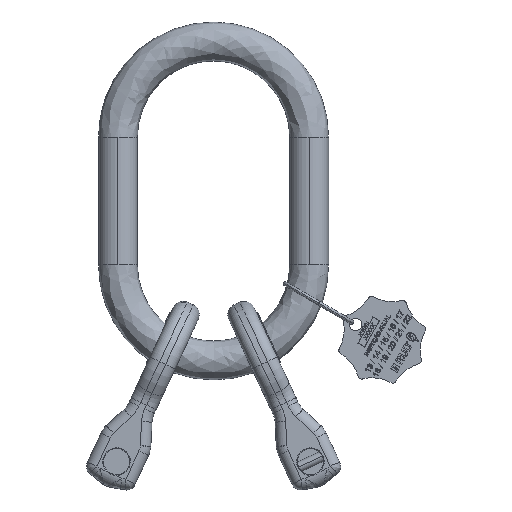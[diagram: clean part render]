
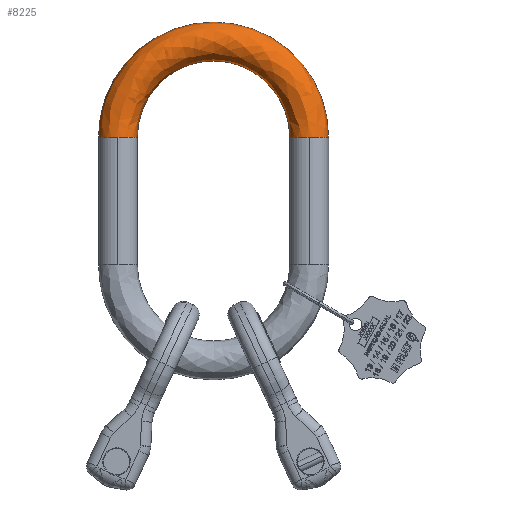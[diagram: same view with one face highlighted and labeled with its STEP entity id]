
A CAD part, top view. The second image highlights one B-rep face of the part: STEP entity #8225.
In plain terms, the highlighted free-form (B-spline) face has degree [3, 3] with [4, 4] control points.
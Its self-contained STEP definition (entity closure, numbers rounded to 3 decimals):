
#8225 = ADVANCED_FACE ( 'NONE', ( #28267 ), #12622, .T. ) ;
#8747 = EDGE_CURVE ( 'NONE', #49415, #49153, #15581, .T. ) ;
#8748 = EDGE_CURVE ( 'NONE', #49151, #49415, #15579, .T. ) ;
#8749 = EDGE_CURVE ( 'NONE', #49153, #49169, #15583, .T. ) ;
#8750 = EDGE_CURVE ( 'NONE', #49169, #49170, #15584, .T. ) ;
#8751 = EDGE_CURVE ( 'NONE', #49419, #49170, #15585, .T. ) ;
#8752 = EDGE_CURVE ( 'NONE', #49419, #49151, #15582, .T. ) ;
#12622 =( BOUNDED_SURFACE ( )  B_SPLINE_SURFACE ( 3, 3, ( 
 ( #58693, #58691, #58701, #58703 ),
 ( #58704, #58706, #58708, #58710 ),
 ( #58711, #58713, #58715, #58717 ),
 ( #58719, #58721, #58722, #58724 ) ),
 .UNSPECIFIED., .F., .F., .F. ) 
 B_SPLINE_SURFACE_WITH_KNOTS ( ( 4, 4 ),
 ( 4, 4 ),
 ( 0., 1. ),
 ( 0., 1. ),
 .UNSPECIFIED. ) 
 GEOMETRIC_REPRESENTATION_ITEM ( )  RATIONAL_B_SPLINE_SURFACE ( (
 ( 1., 0.333, 0.333, 1.),
 ( 0.333, 0.111, 0.111, 0.333),
 ( 0.333, 0.111, 0.111, 0.333),
 ( 1., 0.333, 0.333, 1.) ) ) 
 REPRESENTATION_ITEM ( '' )  SURFACE ( )  );
#13423 = CARTESIAN_POINT ( 'NONE',  ( 0., 52.5, 0. ) ) ;
#13424 = DIRECTION ( 'NONE',  ( 0., 0., -1. ) ) ;
#13426 = DIRECTION ( 'NONE',  ( -1., 0., 0. ) ) ;
#13429 = CARTESIAN_POINT ( 'NONE',  ( -78.5, 52.5, 0. ) ) ;
#13430 = DIRECTION ( 'NONE',  ( 0., 1., 0. ) ) ;
#13432 = DIRECTION ( 'NONE',  ( -1., 0., 0. ) ) ;
#13435 = CARTESIAN_POINT ( 'NONE',  ( 78.5, 52.5, 0. ) ) ;
#13437 = DIRECTION ( 'NONE',  ( 0., 1., 0. ) ) ;
#13438 = DIRECTION ( 'NONE',  ( 1., 0., 0. ) ) ;
#13441 = CARTESIAN_POINT ( 'NONE',  ( 78.5, 52.5, 0. ) ) ;
#13443 = DIRECTION ( 'NONE',  ( 0., 1., 0. ) ) ;
#13444 = DIRECTION ( 'NONE',  ( 1., 0., 0. ) ) ;
#13448 = CARTESIAN_POINT ( 'NONE',  ( 0., 52.5, 0. ) ) ;
#13449 = DIRECTION ( 'NONE',  ( 0., 0., -1. ) ) ;
#13451 = DIRECTION ( 'NONE',  ( -1., 0., 0. ) ) ;
#13454 = CARTESIAN_POINT ( 'NONE',  ( -78.5, 52.5, 0. ) ) ;
#13455 = DIRECTION ( 'NONE',  ( 0., 1., 0. ) ) ;
#13457 = DIRECTION ( 'NONE',  ( -1., 0., 0. ) ) ;
#15579 = CIRCLE ( 'NONE', #60439, 16. ) ;
#15581 = CIRCLE ( 'NONE', #60438, 62.5 ) ;
#15582 = CIRCLE ( 'NONE', #60443, 16. ) ;
#15583 = CIRCLE ( 'NONE', #60440, 16. ) ;
#15584 = CIRCLE ( 'NONE', #60441, 16. ) ;
#15585 = CIRCLE ( 'NONE', #60442, 94.5 ) ;
#18735 = EDGE_LOOP ( 'NONE', ( #21768, #21770, #21772, #21774, #21775, #21777 ) ) ;
#19801 = CARTESIAN_POINT ( 'NONE',  ( -78.5, 52.5, 16. ) ) ;
#19813 = CARTESIAN_POINT ( 'NONE',  ( 62.5, 52.5, 0. ) ) ;
#19829 = CARTESIAN_POINT ( 'NONE',  ( 78.5, 52.5, 16. ) ) ;
#19830 = CARTESIAN_POINT ( 'NONE',  ( 94.5, 52.5, 0. ) ) ;
#20075 = CARTESIAN_POINT ( 'NONE',  ( -62.5, 52.5, 0. ) ) ;
#20079 = CARTESIAN_POINT ( 'NONE',  ( -94.5, 52.5, 0. ) ) ;
#21768 = ORIENTED_EDGE ( 'NONE', *, *, #8748, .T. ) ;
#21770 = ORIENTED_EDGE ( 'NONE', *, *, #8747, .T. ) ;
#21772 = ORIENTED_EDGE ( 'NONE', *, *, #8749, .T. ) ;
#21774 = ORIENTED_EDGE ( 'NONE', *, *, #8750, .T. ) ;
#21775 = ORIENTED_EDGE ( 'NONE', *, *, #8751, .F. ) ;
#21777 = ORIENTED_EDGE ( 'NONE', *, *, #8752, .T. ) ;
#28267 = FACE_OUTER_BOUND ( 'NONE', #18735, .T. ) ;
#49151 = VERTEX_POINT ( 'NONE', #19801 ) ;
#49153 = VERTEX_POINT ( 'NONE', #19813 ) ;
#49169 = VERTEX_POINT ( 'NONE', #19829 ) ;
#49170 = VERTEX_POINT ( 'NONE', #19830 ) ;
#49415 = VERTEX_POINT ( 'NONE', #20075 ) ;
#49419 = VERTEX_POINT ( 'NONE', #20079 ) ;
#58691 = CARTESIAN_POINT ( 'NONE',  ( -94.5, 241.5, 0. ) ) ;
#58693 = CARTESIAN_POINT ( 'NONE',  ( -94.5, 52.5, 0. ) ) ;
#58701 = CARTESIAN_POINT ( 'NONE',  ( 94.5, 241.5, 0. ) ) ;
#58703 = CARTESIAN_POINT ( 'NONE',  ( 94.5, 52.5, 0. ) ) ;
#58704 = CARTESIAN_POINT ( 'NONE',  ( -94.5, 52.5, 32. ) ) ;
#58706 = CARTESIAN_POINT ( 'NONE',  ( -94.5, 241.5, 32. ) ) ;
#58708 = CARTESIAN_POINT ( 'NONE',  ( 94.5, 241.5, 32. ) ) ;
#58710 = CARTESIAN_POINT ( 'NONE',  ( 94.5, 52.5, 32. ) ) ;
#58711 = CARTESIAN_POINT ( 'NONE',  ( -62.5, 52.5, 32. ) ) ;
#58713 = CARTESIAN_POINT ( 'NONE',  ( -62.5, 177.5, 32. ) ) ;
#58715 = CARTESIAN_POINT ( 'NONE',  ( 62.5, 177.5, 32. ) ) ;
#58717 = CARTESIAN_POINT ( 'NONE',  ( 62.5, 52.5, 32. ) ) ;
#58719 = CARTESIAN_POINT ( 'NONE',  ( -62.5, 52.5, 0. ) ) ;
#58721 = CARTESIAN_POINT ( 'NONE',  ( -62.5, 177.5, 0. ) ) ;
#58722 = CARTESIAN_POINT ( 'NONE',  ( 62.5, 177.5, 0. ) ) ;
#58724 = CARTESIAN_POINT ( 'NONE',  ( 62.5, 52.5, 0. ) ) ;
#60438 = AXIS2_PLACEMENT_3D ( 'NONE', #13423, #13424, #13426 ) ;
#60439 = AXIS2_PLACEMENT_3D ( 'NONE', #13429, #13430, #13432 ) ;
#60440 = AXIS2_PLACEMENT_3D ( 'NONE', #13435, #13437, #13438 ) ;
#60441 = AXIS2_PLACEMENT_3D ( 'NONE', #13441, #13443, #13444 ) ;
#60442 = AXIS2_PLACEMENT_3D ( 'NONE', #13448, #13449, #13451 ) ;
#60443 = AXIS2_PLACEMENT_3D ( 'NONE', #13454, #13455, #13457 ) ;
